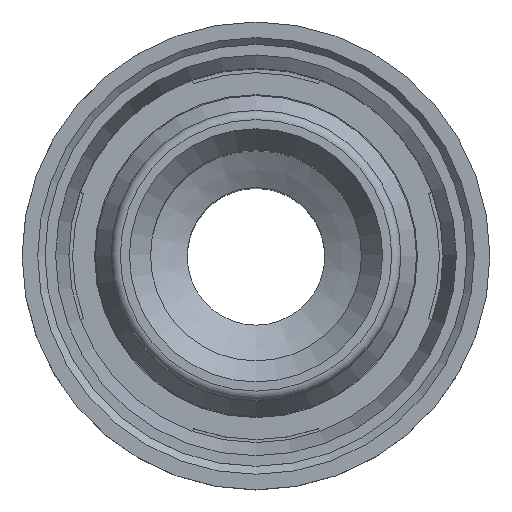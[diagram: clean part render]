
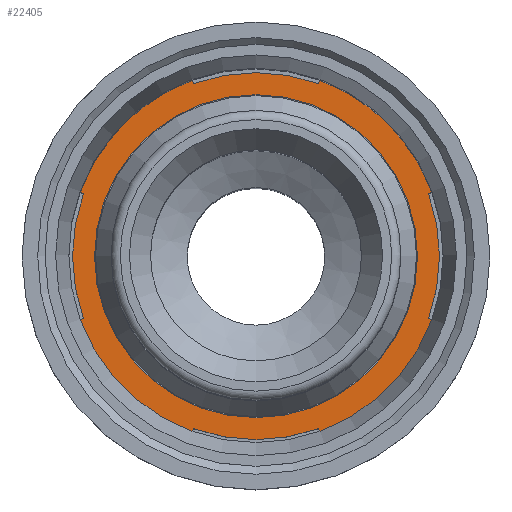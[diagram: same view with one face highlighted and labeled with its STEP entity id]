
A CAD part, top view. The second image highlights one B-rep face of the part: STEP entity #22405.
In plain terms, the highlighted planar face has unit normal (0, 0, 1) as drawn and (0, 0, -1) by its records, which use the part's own axes.
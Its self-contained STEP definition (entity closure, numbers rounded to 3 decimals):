
#168=FACE_BOUND('',#6007,.T.);
#393=PLANE('',#23760);
#1289=LINE('',#43237,#2605);
#1295=LINE('',#43250,#2611);
#1301=LINE('',#43266,#2617);
#1307=LINE('',#43282,#2623);
#1315=LINE('',#43298,#2631);
#1318=LINE('',#43309,#2634);
#1325=LINE('',#43324,#2641);
#1331=LINE('',#43340,#2647);
#2605=VECTOR('',#26311,10.);
#2611=VECTOR('',#26319,10.);
#2617=VECTOR('',#26333,10.);
#2623=VECTOR('',#26347,10.);
#2631=VECTOR('',#26357,10.);
#2634=VECTOR('',#26368,10.);
#2641=VECTOR('',#26377,10.);
#2647=VECTOR('',#26391,10.);
#4688=FACE_OUTER_BOUND('',#6006,.T.);
#6006=EDGE_LOOP('',(#18985,#18986,#18987,#18988,#18989,#18990,#18991,#18992,
#18993,#18994,#18995,#18996,#18997,#18998,#18999,#19000));
#6007=EDGE_LOOP('',(#19001,#19002));
#6902=CIRCLE('',#23686,10.);
#6904=CIRCLE('',#23690,10.);
#6906=CIRCLE('',#23695,10.);
#6908=CIRCLE('',#23700,10.);
#6920=CIRCLE('',#23718,10.2);
#6922=CIRCLE('',#23720,10.2);
#6924=CIRCLE('',#23722,10.2);
#6929=CIRCLE('',#23727,10.2);
#6949=CIRCLE('',#23758,8.8);
#6950=CIRCLE('',#23759,8.8);
#10105=VERTEX_POINT('',#43234);
#10106=VERTEX_POINT('',#43236);
#10111=VERTEX_POINT('',#43247);
#10112=VERTEX_POINT('',#43249);
#10117=VERTEX_POINT('',#43263);
#10118=VERTEX_POINT('',#43265);
#10120=VERTEX_POINT('',#43271);
#10124=VERTEX_POINT('',#43281);
#10127=VERTEX_POINT('',#43288);
#10131=VERTEX_POINT('',#43296);
#10132=VERTEX_POINT('',#43300);
#10134=VERTEX_POINT('',#43306);
#10141=VERTEX_POINT('',#43321);
#10142=VERTEX_POINT('',#43323);
#10144=VERTEX_POINT('',#43329);
#10148=VERTEX_POINT('',#43339);
#10173=VERTEX_POINT('',#43429);
#10174=VERTEX_POINT('',#43431);
#13150=EDGE_CURVE('',#10106,#10105,#1289,.T.);
#13156=EDGE_CURVE('',#10112,#10111,#1295,.T.);
#13159=EDGE_CURVE('',#10105,#10112,#6902,.T.);
#13164=EDGE_CURVE('',#10118,#10117,#1301,.T.);
#13167=EDGE_CURVE('',#10120,#10118,#6904,.T.);
#13172=EDGE_CURVE('',#10124,#10120,#1307,.T.);
#13180=EDGE_CURVE('',#10127,#10131,#1315,.T.);
#13181=EDGE_CURVE('',#10131,#10132,#6906,.T.);
#13185=EDGE_CURVE('',#10132,#10134,#1318,.T.);
#13192=EDGE_CURVE('',#10142,#10141,#1325,.T.);
#13195=EDGE_CURVE('',#10144,#10142,#6908,.T.);
#13200=EDGE_CURVE('',#10148,#10144,#1331,.T.);
#13213=EDGE_CURVE('',#10106,#10117,#6920,.T.);
#13215=EDGE_CURVE('',#10124,#10141,#6922,.T.);
#13217=EDGE_CURVE('',#10148,#10134,#6924,.T.);
#13223=EDGE_CURVE('',#10127,#10111,#6929,.T.);
#13250=EDGE_CURVE('',#10174,#10173,#6949,.T.);
#13251=EDGE_CURVE('',#10173,#10174,#6950,.T.);
#18985=ORIENTED_EDGE('',*,*,#13156,.T.);
#18986=ORIENTED_EDGE('',*,*,#13223,.F.);
#18987=ORIENTED_EDGE('',*,*,#13180,.T.);
#18988=ORIENTED_EDGE('',*,*,#13181,.T.);
#18989=ORIENTED_EDGE('',*,*,#13185,.T.);
#18990=ORIENTED_EDGE('',*,*,#13217,.F.);
#18991=ORIENTED_EDGE('',*,*,#13200,.T.);
#18992=ORIENTED_EDGE('',*,*,#13195,.T.);
#18993=ORIENTED_EDGE('',*,*,#13192,.T.);
#18994=ORIENTED_EDGE('',*,*,#13215,.F.);
#18995=ORIENTED_EDGE('',*,*,#13172,.T.);
#18996=ORIENTED_EDGE('',*,*,#13167,.T.);
#18997=ORIENTED_EDGE('',*,*,#13164,.T.);
#18998=ORIENTED_EDGE('',*,*,#13213,.F.);
#18999=ORIENTED_EDGE('',*,*,#13150,.T.);
#19000=ORIENTED_EDGE('',*,*,#13159,.T.);
#19001=ORIENTED_EDGE('',*,*,#13250,.T.);
#19002=ORIENTED_EDGE('',*,*,#13251,.T.);
#22405=ADVANCED_FACE('',(#4688,#168),#393,.T.);
#23686=AXIS2_PLACEMENT_3D('',#43255,#26324,#26325);
#23690=AXIS2_PLACEMENT_3D('',#43272,#26338,#26339);
#23695=AXIS2_PLACEMENT_3D('',#43301,#26360,#26361);
#23700=AXIS2_PLACEMENT_3D('',#43330,#26382,#26383);
#23718=AXIS2_PLACEMENT_3D('',#43361,#26424,#26425);
#23720=AXIS2_PLACEMENT_3D('',#43363,#26428,#26429);
#23722=AXIS2_PLACEMENT_3D('',#43365,#26432,#26433);
#23727=AXIS2_PLACEMENT_3D('',#43374,#26443,#26444);
#23758=AXIS2_PLACEMENT_3D('',#43432,#26512,#26513);
#23759=AXIS2_PLACEMENT_3D('',#43433,#26514,#26515);
#23760=AXIS2_PLACEMENT_3D('',#43434,#26516,#26517);
#26311=DIRECTION('',(0.94,0.342,0.));
#26319=DIRECTION('',(-0.94,0.342,0.));
#26324=DIRECTION('center_axis',(0.,0.,-1.));
#26325=DIRECTION('ref_axis',(0.94,-0.34,0.));
#26333=DIRECTION('',(-0.342,-0.94,0.));
#26338=DIRECTION('center_axis',(0.,0.,-1.));
#26339=DIRECTION('ref_axis',(0.34,0.94,0.));
#26347=DIRECTION('',(-0.342,0.94,0.));
#26357=DIRECTION('',(0.342,-0.94,0.));
#26360=DIRECTION('center_axis',(0.,0.,-1.));
#26361=DIRECTION('ref_axis',(-0.34,-0.94,0.));
#26368=DIRECTION('',(0.342,0.94,0.));
#26377=DIRECTION('',(0.94,-0.342,0.));
#26382=DIRECTION('center_axis',(0.,0.,-1.));
#26383=DIRECTION('ref_axis',(-0.94,0.34,0.));
#26391=DIRECTION('',(-0.94,-0.342,0.));
#26424=DIRECTION('center_axis',(0.,0.,1.));
#26425=DIRECTION('ref_axis',(1.,0.,0.));
#26428=DIRECTION('center_axis',(0.,0.,1.));
#26429=DIRECTION('ref_axis',(1.,0.,0.));
#26432=DIRECTION('center_axis',(0.,0.,1.));
#26433=DIRECTION('ref_axis',(1.,0.,0.));
#26443=DIRECTION('center_axis',(0.,0.,1.));
#26444=DIRECTION('ref_axis',(1.,0.,0.));
#26512=DIRECTION('center_axis',(0.,0.,1.));
#26513=DIRECTION('ref_axis',(1.,0.,0.));
#26514=DIRECTION('center_axis',(0.,0.,1.));
#26515=DIRECTION('ref_axis',(1.,0.,0.));
#26516=DIRECTION('center_axis',(0.,0.,-1.));
#26517=DIRECTION('ref_axis',(-1.,0.,0.));
#43234=CARTESIAN_POINT('',(-9.404,-3.4,7.));
#43236=CARTESIAN_POINT('',(-9.592,-3.468,7.));
#43237=CARTESIAN_POINT('',(-6.345,-2.286,7.));
#43247=CARTESIAN_POINT('',(-9.592,3.468,7.));
#43249=CARTESIAN_POINT('',(-9.404,3.4,7.));
#43250=CARTESIAN_POINT('',(-5.051,1.816,7.));
#43255=CARTESIAN_POINT('Origin',(0.,0.,7.));
#43263=CARTESIAN_POINT('',(-3.468,-9.592,7.));
#43265=CARTESIAN_POINT('',(-3.4,-9.404,7.));
#43266=CARTESIAN_POINT('',(-4.051,-11.194,7.));
#43271=CARTESIAN_POINT('',(3.4,-9.404,7.));
#43272=CARTESIAN_POINT('Origin',(0.,0.,7.));
#43281=CARTESIAN_POINT('',(3.468,-9.592,7.));
#43282=CARTESIAN_POINT('',(3.329,-9.209,7.));
#43288=CARTESIAN_POINT('',(-3.468,9.592,7.));
#43296=CARTESIAN_POINT('',(-3.4,9.404,7.));
#43298=CARTESIAN_POINT('',(-0.051,0.202,7.));
#43300=CARTESIAN_POINT('',(3.4,9.404,7.));
#43301=CARTESIAN_POINT('Origin',(0.,0.,7.));
#43306=CARTESIAN_POINT('',(3.468,9.592,7.));
#43309=CARTESIAN_POINT('',(0.773,2.187,7.));
#43321=CARTESIAN_POINT('',(9.592,-3.468,7.));
#43323=CARTESIAN_POINT('',(9.404,-3.4,7.));
#43324=CARTESIAN_POINT('',(8.33,-3.009,7.));
#43329=CARTESIAN_POINT('',(9.404,3.4,7.));
#43330=CARTESIAN_POINT('Origin',(0.,0.,7.));
#43339=CARTESIAN_POINT('',(9.592,3.468,7.));
#43340=CARTESIAN_POINT('',(3.067,1.093,7.));
#43361=CARTESIAN_POINT('Origin',(0.,0.,7.));
#43363=CARTESIAN_POINT('Origin',(0.,0.,7.));
#43365=CARTESIAN_POINT('Origin',(0.,0.,7.));
#43374=CARTESIAN_POINT('Origin',(0.,0.,7.));
#43429=CARTESIAN_POINT('',(0.,8.8,7.));
#43431=CARTESIAN_POINT('',(0.,-8.8,7.));
#43432=CARTESIAN_POINT('Origin',(0.,0.,7.));
#43433=CARTESIAN_POINT('Origin',(0.,0.,7.));
#43434=CARTESIAN_POINT('Origin',(0.,-10.2,7.));
